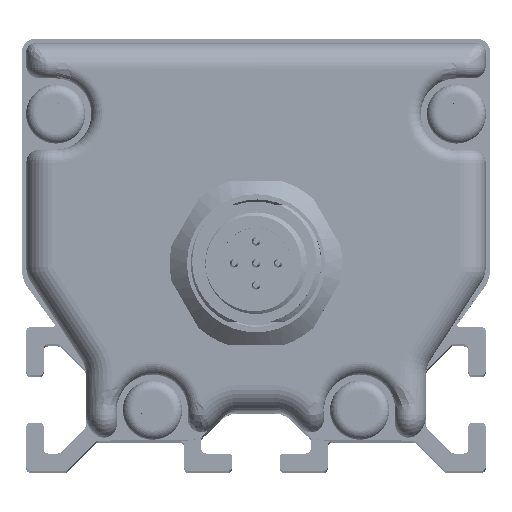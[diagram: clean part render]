
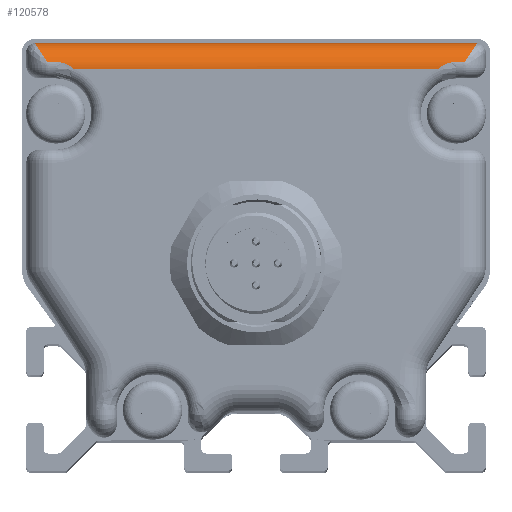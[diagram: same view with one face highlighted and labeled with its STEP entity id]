
A CAD part, top view. The second image highlights one B-rep face of the part: STEP entity #120578.
In plain terms, the highlighted cylindrical face has radius 3 mm (diameter 6 mm), a partial arc.
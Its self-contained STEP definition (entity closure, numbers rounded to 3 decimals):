
#93 = EDGE_CURVE ( 'NONE', #34608, #94411, #66933, .T. ) ;
#1380 = VERTEX_POINT ( 'NONE', #93900 ) ;
#2243 = CARTESIAN_POINT ( 'NONE',  ( -21.208, 36.126, 10. ) ) ;
#3972 = CARTESIAN_POINT ( 'NONE',  ( 24.167, 36.85, 9.877 ) ) ;
#5516 = CARTESIAN_POINT ( 'NONE',  ( 25.049, 38.174, 9.486 ) ) ;
#9925 = ORIENTED_EDGE ( 'NONE', *, *, #88103, .T. ) ;
#11540 = CARTESIAN_POINT ( 'NONE',  ( -22.803, 36.829, 9.884 ) ) ;
#11668 = CARTESIAN_POINT ( 'NONE',  ( -25.6, 39., 7. ) ) ;
#11710 = CARTESIAN_POINT ( 'NONE',  ( 22.424, 36.749, 9.905 ) ) ;
#13357 = EDGE_CURVE ( 'NONE', #149323, #34608, #89285, .T. ) ;
#15360 = AXIS2_PLACEMENT_3D ( 'NONE', #137303, #42350, #19962 ) ;
#17079 = CARTESIAN_POINT ( 'NONE',  ( 25.6, 39., 8.38 ) ) ;
#19167 = EDGE_CURVE ( 'NONE', #1380, #152413, #55954, .T. ) ;
#19962 = DIRECTION ( 'NONE',  ( 0., 0., -1. ) ) ;
#21325 = B_SPLINE_CURVE_WITH_KNOTS ( 'NONE', 3,
 ( #83426, #106553, #57975, #130562, #11710, #129789, #81880, #115120 ),
 .UNSPECIFIED., .F., .F.,
 ( 4, 2, 2, 4 ),
 ( 0., 0.001, 0.002, 0.002 ),
 .UNSPECIFIED. ) ;
#21496 = CARTESIAN_POINT ( 'NONE',  ( -25.6, 39., 7. ) ) ;
#24216 = ORIENTED_EDGE ( 'NONE', *, *, #34246, .F. ) ;
#26192 = VECTOR ( 'NONE', #33568, 1000. ) ;
#29046 = ORIENTED_EDGE ( 'NONE', *, *, #19167, .T. ) ;
#33568 = DIRECTION ( 'NONE',  ( -1., 0., 0. ) ) ;
#34246 = EDGE_CURVE ( 'NONE', #34529, #94411, #77601, .T. ) ;
#34529 = VERTEX_POINT ( 'NONE', #136684 ) ;
#34608 = VERTEX_POINT ( 'NONE', #44744 ) ;
#36530 = EDGE_CURVE ( 'NONE', #149323, #144433, #77504, .T. ) ;
#36973 = LINE ( 'NONE', #85548, #73885 ) ;
#38678 = CARTESIAN_POINT ( 'NONE',  ( 25.6, 39., 7. ) ) ;
#39435 = CARTESIAN_POINT ( 'NONE',  ( 25.6, 39., 7. ) ) ;
#42350 = DIRECTION ( 'NONE',  ( 1., 0., 0. ) ) ;
#42463 = ORIENTED_EDGE ( 'NONE', *, *, #78727, .T. ) ;
#44744 = CARTESIAN_POINT ( 'NONE',  ( -23.2, 36.85, 9.877 ) ) ;
#44767 = ORIENTED_EDGE ( 'NONE', *, *, #64801, .F. ) ;
#45458 = CARTESIAN_POINT ( 'NONE',  ( -23.002, 36.85, 9.877 ) ) ;
#47728 = CARTESIAN_POINT ( 'NONE',  ( -21.367, 36.241, 9.992 ) ) ;
#50393 =( BOUNDED_CURVE ( )  B_SPLINE_CURVE ( 3, ( #3972, #5516, #17079, #38678 ),
 .UNSPECIFIED., .F., .F. ) 
 B_SPLINE_CURVE_WITH_KNOTS ( ( 4, 4 ),
 ( 5., 6.283 ),
 .UNSPECIFIED. ) 
 CURVE ( )  GEOMETRIC_REPRESENTATION_ITEM ( )  RATIONAL_B_SPLINE_CURVE ( ( 1., 0.867, 0.867, 1. ) ) 
 REPRESENTATION_ITEM ( '' )  );
#54556 = CARTESIAN_POINT ( 'NONE',  ( 0., 36.85, 9.877 ) ) ;
#55954 = LINE ( 'NONE', #127741, #112062 ) ;
#56358 = CARTESIAN_POINT ( 'NONE',  ( -24.167, 36.85, 9.877 ) ) ;
#57975 = CARTESIAN_POINT ( 'NONE',  ( 21.693, 36.464, 9.968 ) ) ;
#58575 = CARTESIAN_POINT ( 'NONE',  ( -22.421, 36.748, 9.906 ) ) ;
#61889 = CARTESIAN_POINT ( 'NONE',  ( 24.167, 36.85, 9.877 ) ) ;
#64155 = VERTEX_POINT ( 'NONE', #39435 ) ;
#64801 = EDGE_CURVE ( 'NONE', #144433, #64155, #36973, .T. ) ;
#66299 = CYLINDRICAL_SURFACE ( 'NONE', #15360, 3. ) ;
#66933 = B_SPLINE_CURVE_WITH_KNOTS ( 'NONE', 3,
 ( #128857, #45458, #11540, #58575, #70166, #117222, #149005, #47728, #2243, #82488 ),
 .UNSPECIFIED., .F., .F.,
 ( 4, 2, 2, 2, 4 ),
 ( 0., 0.001, 0.001, 0.002, 0.002 ),
 .UNSPECIFIED. ) ;
#70166 = CARTESIAN_POINT ( 'NONE',  ( -22.236, 36.689, 9.921 ) ) ;
#73885 = VECTOR ( 'NONE', #132677, 1000. ) ;
#76983 = DIRECTION ( 'NONE',  ( 1., 0., 0. ) ) ;
#77504 =( BOUNDED_CURVE ( )  B_SPLINE_CURVE ( 3, ( #138059, #151181, #137317, #21496 ),
 .UNSPECIFIED., .F., .F. ) 
 B_SPLINE_CURVE_WITH_KNOTS ( ( 4, 4 ),
 ( 5., 6.283 ),
 .UNSPECIFIED. ) 
 CURVE ( )  GEOMETRIC_REPRESENTATION_ITEM ( )  RATIONAL_B_SPLINE_CURVE ( ( 1., 0.867, 0.867, 1. ) ) 
 REPRESENTATION_ITEM ( '' )  );
#77601 = LINE ( 'NONE', #127734, #26192 ) ;
#78727 = EDGE_CURVE ( 'NONE', #152413, #64155, #50393, .T. ) ;
#81880 = CARTESIAN_POINT ( 'NONE',  ( 23.002, 36.85, 9.877 ) ) ;
#82488 = CARTESIAN_POINT ( 'NONE',  ( -21.055, 36., 10. ) ) ;
#83426 = CARTESIAN_POINT ( 'NONE',  ( 21.055, 36., 10. ) ) ;
#85548 = CARTESIAN_POINT ( 'NONE',  ( 25.6, 39., 7. ) ) ;
#88103 = EDGE_CURVE ( 'NONE', #34529, #1380, #21325, .T. ) ;
#88554 = EDGE_LOOP ( 'NONE', ( #9925, #29046, #42463, #44767, #131806, #152308, #102841, #24216 ) ) ;
#89285 = LINE ( 'NONE', #54556, #131784 ) ;
#93900 = CARTESIAN_POINT ( 'NONE',  ( 23.2, 36.85, 9.877 ) ) ;
#94411 = VERTEX_POINT ( 'NONE', #146126 ) ;
#102841 = ORIENTED_EDGE ( 'NONE', *, *, #93, .T. ) ;
#106553 = CARTESIAN_POINT ( 'NONE',  ( 21.36, 36.251, 10. ) ) ;
#112062 = VECTOR ( 'NONE', #151686, 1000. ) ;
#115120 = CARTESIAN_POINT ( 'NONE',  ( 23.2, 36.85, 9.877 ) ) ;
#117222 = CARTESIAN_POINT ( 'NONE',  ( -21.876, 36.54, 9.952 ) ) ;
#120578 = ADVANCED_FACE ( 'NONE', ( #148169 ), #66299, .T. ) ;
#127734 = CARTESIAN_POINT ( 'NONE',  ( -25.6, 36., 10. ) ) ;
#127741 = CARTESIAN_POINT ( 'NONE',  ( 0., 36.85, 9.877 ) ) ;
#128857 = CARTESIAN_POINT ( 'NONE',  ( -23.2, 36.85, 9.877 ) ) ;
#129789 = CARTESIAN_POINT ( 'NONE',  ( 22.807, 36.829, 9.883 ) ) ;
#130562 = CARTESIAN_POINT ( 'NONE',  ( 22.234, 36.689, 9.921 ) ) ;
#131784 = VECTOR ( 'NONE', #76983, 1000. ) ;
#131806 = ORIENTED_EDGE ( 'NONE', *, *, #36530, .F. ) ;
#132677 = DIRECTION ( 'NONE',  ( 1., 0., 0. ) ) ;
#136684 = CARTESIAN_POINT ( 'NONE',  ( 21.055, 36., 10. ) ) ;
#137303 = CARTESIAN_POINT ( 'NONE',  ( 0., 36., 7. ) ) ;
#137317 = CARTESIAN_POINT ( 'NONE',  ( -25.6, 39., 8.38 ) ) ;
#138059 = CARTESIAN_POINT ( 'NONE',  ( -24.167, 36.85, 9.877 ) ) ;
#144433 = VERTEX_POINT ( 'NONE', #11668 ) ;
#146126 = CARTESIAN_POINT ( 'NONE',  ( -21.055, 36., 10. ) ) ;
#148169 = FACE_OUTER_BOUND ( 'NONE', #88554, .T. ) ;
#149005 = CARTESIAN_POINT ( 'NONE',  ( -21.7, 36.448, 9.968 ) ) ;
#149323 = VERTEX_POINT ( 'NONE', #56358 ) ;
#151181 = CARTESIAN_POINT ( 'NONE',  ( -25.049, 38.174, 9.486 ) ) ;
#151686 = DIRECTION ( 'NONE',  ( 1., 0., 0. ) ) ;
#152308 = ORIENTED_EDGE ( 'NONE', *, *, #13357, .T. ) ;
#152413 = VERTEX_POINT ( 'NONE', #61889 ) ;
